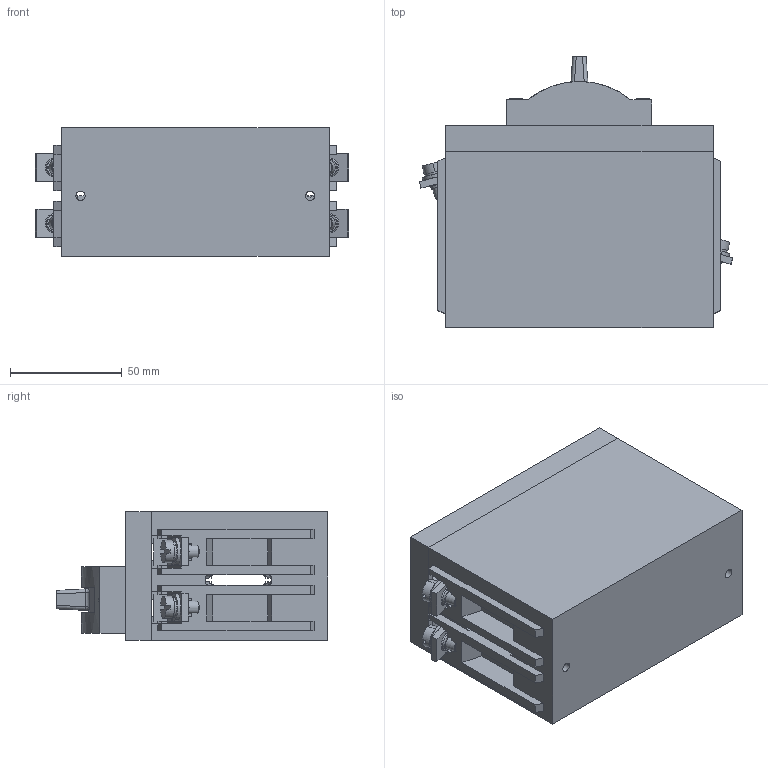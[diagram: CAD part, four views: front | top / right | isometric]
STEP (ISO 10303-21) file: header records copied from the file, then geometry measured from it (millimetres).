
FILE_DESCRIPTION (( 'STEP AP203' ), '1' );
FILE_NAME ('ÀÊ50Á-2ïîë.STEP', '2014-07-04T07:01:37', ( 'admin' ), ( '' ), 'SwSTEP 2.0', 'SolidWorks 2007', '' );
FILE_SCHEMA (( 'CONFIG_CONTROL_DESIGN' ));
Length unit declared in the file: millimetre
Products named in the file (1): ÀÊ50Á-2ïîë
Bounding box: 140.55 x 121.5 x 57.5 mm (x, y, z)
Surface area: 83443.9 mm2 (no closed solid volume)
Topology: 0 solids, 24 shells, 330 faces, 1195 edges, 885 vertices
Faces by surface type: plane 207, cylinder 93, cone 14, bspline 8, torus 8
Entity records: 13353 total; most frequent: CARTESIAN_POINT 3234, DIRECTION 2057, ORIENTED_EDGE 1895, EDGE_CURVE 1191, VERTEX_POINT 885, VECTOR 825, LINE 825, AXIS2_PLACEMENT_3D 616
